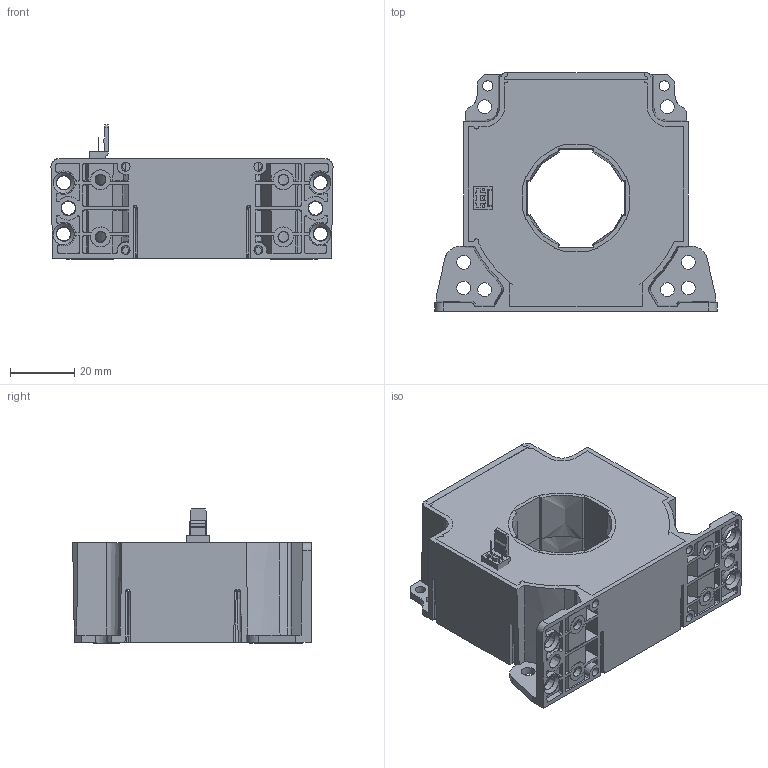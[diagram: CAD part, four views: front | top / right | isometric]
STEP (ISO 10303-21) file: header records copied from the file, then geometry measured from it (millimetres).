
FILE_DESCRIPTION((''),'2;1');
FILE_NAME('Z:\CAPM\Capteur effet hall\Produits\Gamme de produit standard\Courant\MSA500\MSA505\MSA505.stp','2012-02-17T13:03:01',('lm'),(''),'Autodesk Inventor 2012','Autodesk Inventor 2012','');
FILE_SCHEMA(('AUTOMOTIVE_DESIGN { 1 0 10303 214 1 1 1 1 }'));
Length unit declared in the file: millimetre
Products named in the file (1): MSA505-S-0001_Enveloppe_1
Bounding box: 87.91 x 74.4 x 41.8 mm (x, y, z)
Surface area: 30282.3 mm2 (no closed solid volume)
Topology: 0 solids, 18 shells, 433 faces, 1759 edges, 1347 vertices
Faces by surface type: plane 254, cylinder 69, cone 56, bspline 48, sphere 6
Entity records: 22043 total; most frequent: CARTESIAN_POINT 7936, ORIENTED_EDGE 2815, DIRECTION 2569, EDGE_CURVE 1741, VERTEX_POINT 1347, VECTOR 1013, LINE 1013, AXIS2_PLACEMENT_3D 778
